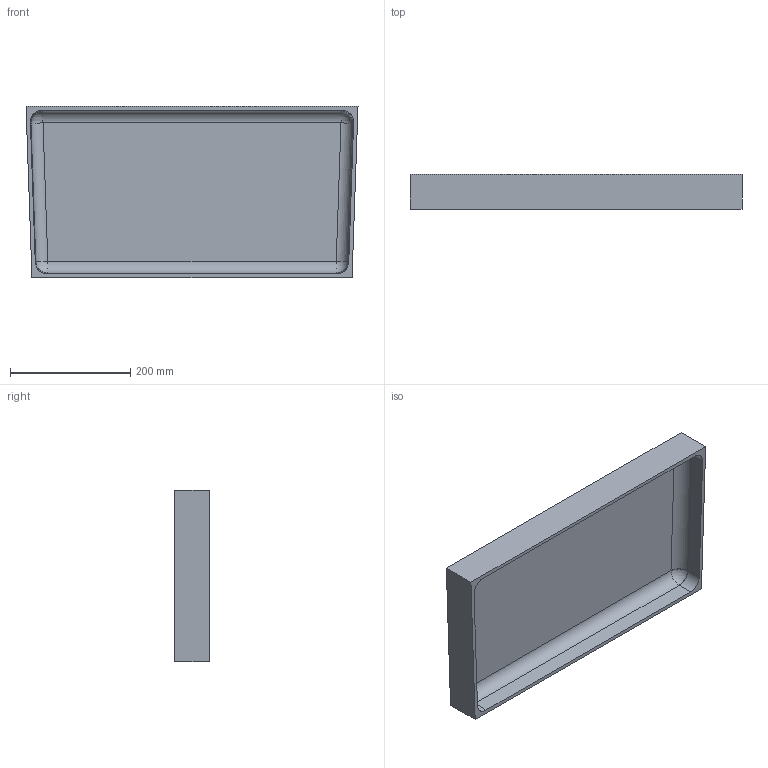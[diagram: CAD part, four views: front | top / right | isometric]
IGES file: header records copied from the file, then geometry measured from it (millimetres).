
Start section: SolidWorks IGES file using analytic representation for surfaces
Global section: file name: C:\working\0450 GMTK\0450 Case, Top, OEM.IGS; native system: SolidWorks 2007; preprocessor: SolidWorks 2007; author: darato; date: 090130.081417; units: inch
Bounding box: 553.03 x 57.91 x 284.88 mm (x, y, z)
Surface area: 461467.8 mm2 (no closed solid volume)
Topology: 0 solids, 0 shells, 27 faces, 242 edges, 242 vertices
Faces by surface type: revolution 16, bspline 11
